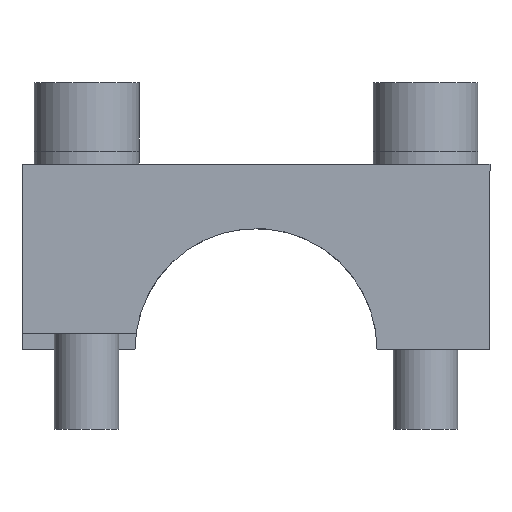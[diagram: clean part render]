
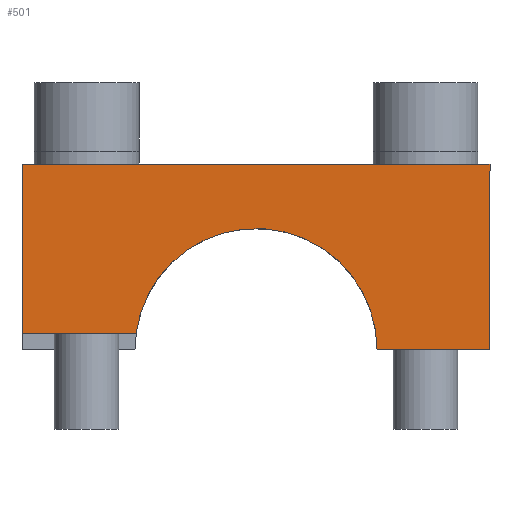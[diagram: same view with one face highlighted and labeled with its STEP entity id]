
A CAD part, front view. The second image highlights one B-rep face of the part: STEP entity #501.
In plain terms, the highlighted planar face has unit normal (0, -1, 0).
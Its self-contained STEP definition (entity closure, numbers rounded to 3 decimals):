
#501=ADVANCED_FACE('Rotate.1',(#1078),#1079,.F.);
#1078=FACE_OUTER_BOUND('',#1798,.T.);
#1079=PLANE('',#1799);
#1798=EDGE_LOOP('',(#3061,#3062,#3063,#3064,#3065,#3066));
#1799=AXIS2_PLACEMENT_3D('',#3067,#3068,#3069);
#3061=ORIENTED_EDGE('',*,*,#4522,.F.);
#3062=ORIENTED_EDGE('',*,*,#4523,.F.);
#3063=ORIENTED_EDGE('',*,*,#4513,.F.);
#3064=ORIENTED_EDGE('',*,*,#4486,.F.);
#3065=ORIENTED_EDGE('',*,*,#4491,.F.);
#3066=ORIENTED_EDGE('',*,*,#4524,.F.);
#3067=CARTESIAN_POINT('',(0.,-28.0,0.0));
#3068=DIRECTION('',(0.,1.0,-0.0));
#3069=DIRECTION('',(-1.0,0.,0.0));
#4486=EDGE_CURVE('',#5430,#5432,#5433,.T.);
#4491=EDGE_CURVE('',#5439,#5430,#5441,.F.);
#4513=EDGE_CURVE('',#5432,#5479,#5480,.F.);
#4522=EDGE_CURVE('',#5493,#5494,#5495,.T.);
#4523=EDGE_CURVE('',#5479,#5493,#5496,.F.);
#4524=EDGE_CURVE('',#5494,#5439,#5497,.F.);
#5430=VERTEX_POINT('',#6946);
#5432=VERTEX_POINT('',#6949);
#5433=LINE('',#6950,#6951);
#5439=VERTEX_POINT('',#6959);
#5441=LINE('',#6962,#6963);
#5479=VERTEX_POINT('',#7017);
#5480=LINE('',#7018,#7019);
#5493=VERTEX_POINT('',#7035);
#5494=VERTEX_POINT('',#7036);
#5495=LINE('',#7037,#7038);
#5496=LINE('',#7039,#7040);
#5497=CIRCLE('',#7041,15.0);
#6946=CARTESIAN_POINT('',(-29.0,-28.0,2.));
#6949=CARTESIAN_POINT('',(-29.0,-28.0,23.0));
#6950=CARTESIAN_POINT('',(-29.0,-28.0,12.5));
#6951=VECTOR('',#8283,1.0);
#6959=CARTESIAN_POINT('',(-14.866,-28.0,2.));
#6962=CARTESIAN_POINT('',(-21.933,-28.0,2.));
#6963=VECTOR('',#8287,1.0);
#7017=CARTESIAN_POINT('',(29.,-28.0,23.));
#7018=CARTESIAN_POINT('',(0.,-28.0,23.));
#7019=VECTOR('',#8313,1.0);
#7035=CARTESIAN_POINT('',(29.0,-28.0,0.));
#7036=CARTESIAN_POINT('',(15.0,-28.0,0.));
#7037=CARTESIAN_POINT('',(22.0,-28.0,0.));
#7038=VECTOR('',#8329,1.0);
#7039=CARTESIAN_POINT('',(29.0,-28.0,11.5));
#7040=VECTOR('',#8330,1.0);
#7041=AXIS2_PLACEMENT_3D('',#8331,#8332,#8333);
#8283=DIRECTION('',(0.0,0.0,1.0));
#8287=DIRECTION('',(1.0,0.0,0.0));
#8313=DIRECTION('',(-1.0,0.,0.0));
#8329=DIRECTION('',(-1.0,0.0,0.0));
#8330=DIRECTION('',(0.0,0.0,1.0));
#8331=CARTESIAN_POINT('',(0.,-28.0,0.0));
#8332=DIRECTION('',(0.,1.0,-0.0));
#8333=DIRECTION('',(-1.0,0.,0.0));
